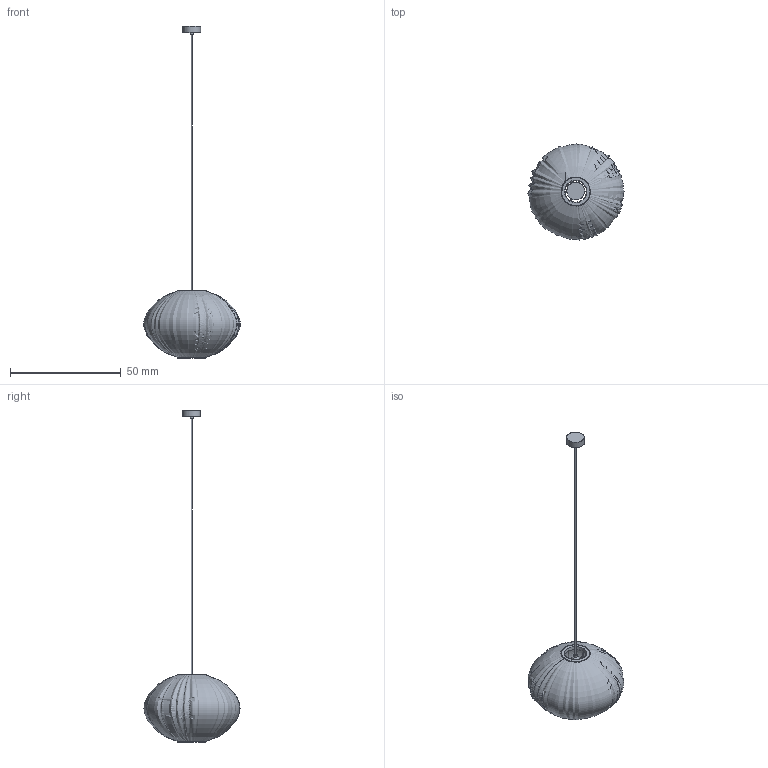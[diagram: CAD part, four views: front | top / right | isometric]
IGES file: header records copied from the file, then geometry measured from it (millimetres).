
Global section: file name: D:\3_IDENTIDAD CORPORATIVA\19 - ARCHIVOS DWG - IGS - DXF\CORAL\COAU04.igs; native system: Rhinoceros ( Apr  1 2010 ); preprocessor: Trout Lake IGES 012 Apr  1 2010; date: 110728.114658; units: millimetre
Bounding box: 43.52 x 43.41 x 149.99 mm (x, y, z)
Surface area: 5759.5 mm2 (no closed solid volume)
Topology: 0 solids, 0 shells, 53 faces, 383 edges, 346 vertices
Faces by surface type: bspline 53
